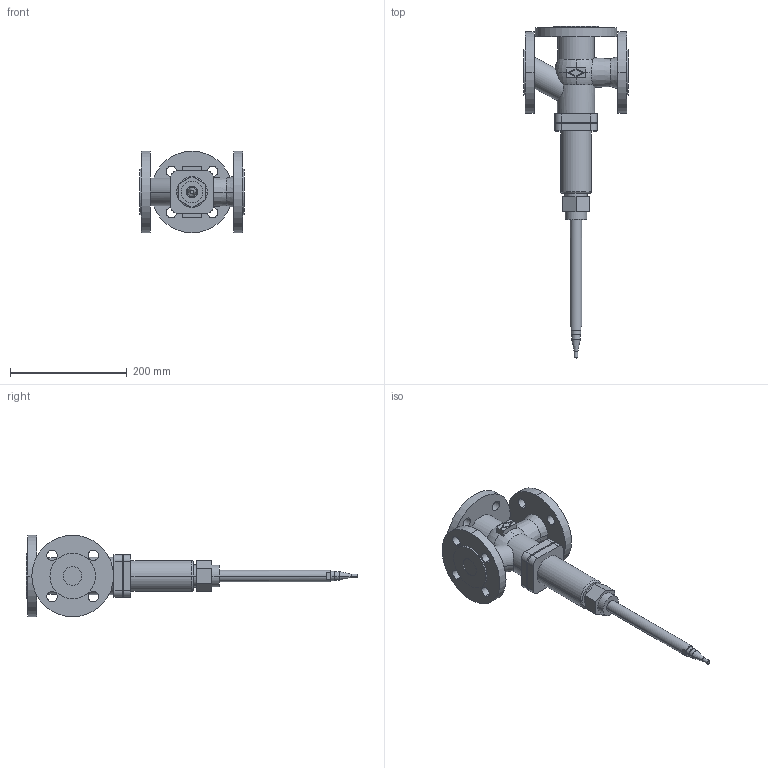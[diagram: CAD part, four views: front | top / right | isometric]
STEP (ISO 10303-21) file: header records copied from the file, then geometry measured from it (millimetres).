
FILE_DESCRIPTION(('CoCreate Modeling STEP Export'),'2;1');
FILE_NAME('c000004729.stp','2011-09-23T12:31:50',(''),(''),'CoCreate Modeling STEP processor for AP214 (Solid Model)','CoCreate Modeling 17.0 01-Apr-2010 (C) Parametric Technology GmbH','');
FILE_SCHEMA(('AUTOMOTIVE_DESIGN { 1 0 10303 214 1 1 1 1 }'));
Length unit declared in the file: millimetre
Products named in the file (1): 1
Bounding box: 180 x 569.44 x 140 mm (x, y, z)
Volume: 1823941.4 mm3; surface area: 209987.6 mm2
Topology: 1 solids, 1 shells, 145 faces, 359 edges, 236 vertices
Faces by surface type: cylinder 70, plane 60, torus 9, cone 6
Entity records: 5169 total; most frequent: CARTESIAN_POINT 840, ORIENTED_EDGE 718, DIRECTION 566, EDGE_CURVE 359, VERTEX_POINT 236, AXIS2_PLACEMENT_3D 200, EDGE_LOOP 189, VECTOR 166
